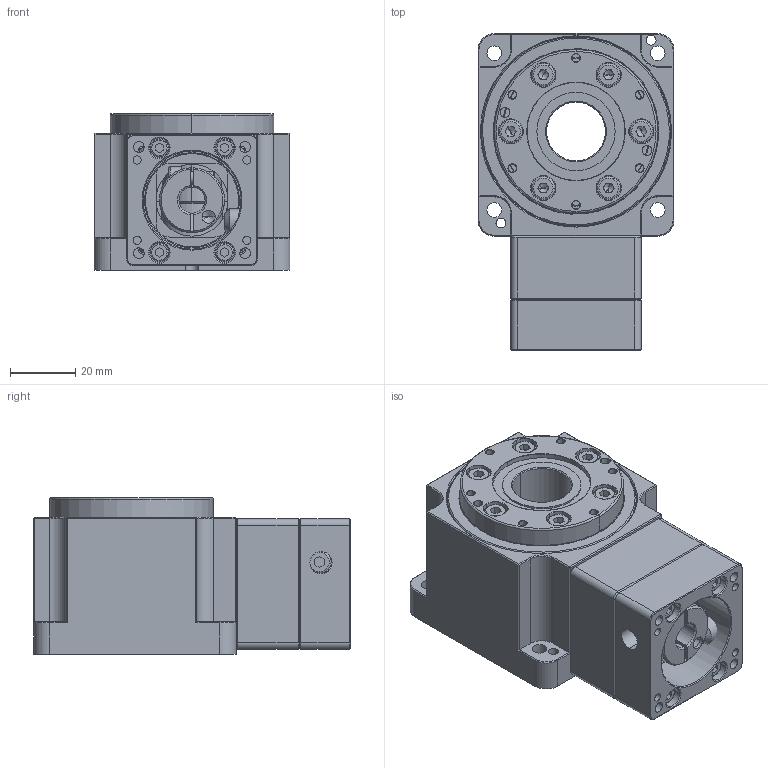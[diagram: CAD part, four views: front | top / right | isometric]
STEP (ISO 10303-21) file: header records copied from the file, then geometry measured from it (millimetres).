
FILE_DESCRIPTION (( 'STEP AP203' ), '1' );
FILE_NAME ('MTR60-10-N1（PCD46）.STEP', '2023-07-21T06:41:54', ( 'Microsoft' ), ( 'Microsoft' ), 'SwSTEP 2.0', 'SolidWorks 2019', '' );
FILE_SCHEMA (( 'CONFIG_CONTROL_DESIGN' ));
Length unit declared in the file: millimetre
Products named in the file (1): MTR60-10-N1（PCD46）
Bounding box: 60 x 97 x 48 mm (x, y, z)
Surface area: 39653.9 mm2 (no closed solid volume)
Topology: 0 solids, 25 shells, 576 faces, 1662 edges, 1054 vertices
Faces by surface type: plane 247, cylinder 168, cone 125, torus 36
Entity records: 19158 total; most frequent: CARTESIAN_POINT 3712, DIRECTION 3461, ORIENTED_EDGE 2848, EDGE_CURVE 1636, AXIS2_PLACEMENT_3D 1289, VERTEX_POINT 1054, LINE 883, VECTOR 883
